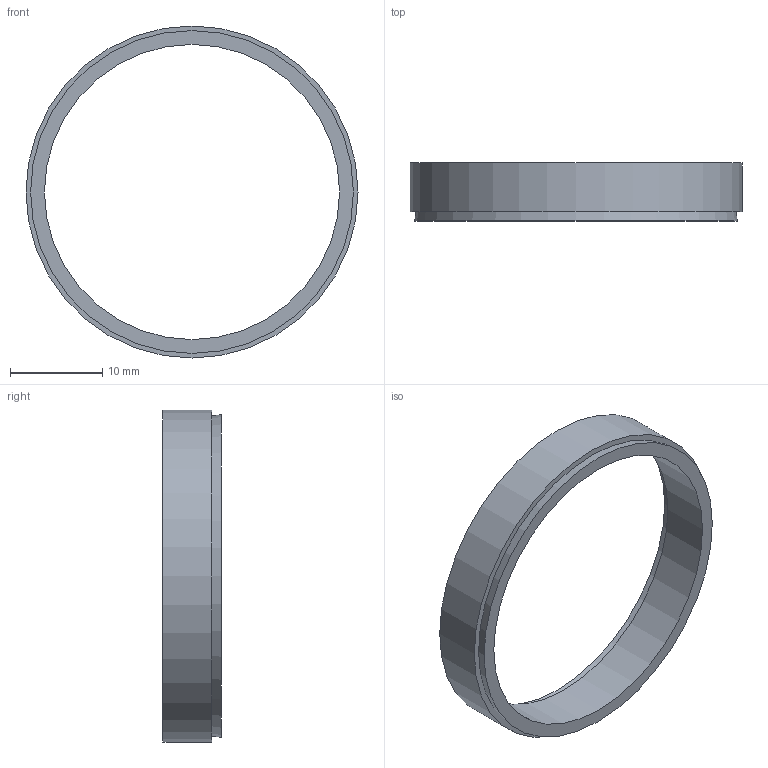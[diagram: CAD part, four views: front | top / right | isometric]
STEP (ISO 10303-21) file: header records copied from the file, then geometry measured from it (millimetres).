
FILE_DESCRIPTION( ( 'Unknown' ), '1' );
FILE_NAME( 'C:/Dokumente und Einstellungen/Sven/Desktop/homepage/cad - homepage/KBS50/KBS 50 - 32 x 36.stp', 'Unknown', ( 'Unknown' ), ( 'Unknown' ), 'XStep 1.0', 'Unknown', ' ' );
FILE_SCHEMA( ( 'automotive_design' ) );
Length unit declared in the file: millimetre
Products named in the file (1): 1
Bounding box: 36 x 6.3 x 36 mm (x, y, z)
Volume: 1222.1 mm3; surface area: 1809.7 mm2
Topology: 1 solids, 1 shells, 8 faces, 12 edges, 8 vertices
Faces by surface type: plane 4, cylinder 2, cone 2
Full cylindrical faces by diameter (mm): 32 x1, 36 x1
Entity records: 248 total; most frequent: DIRECTION 34, CARTESIAN_POINT 25, AXIS2_PLACEMENT_3D 17, EDGE_LOOP 16, ORIENTED_EDGE 16, FACE_OUTER_BOUND 10, STYLED_ITEM 8, PRESENTATION_STYLE_ASSIGNMENT 8
